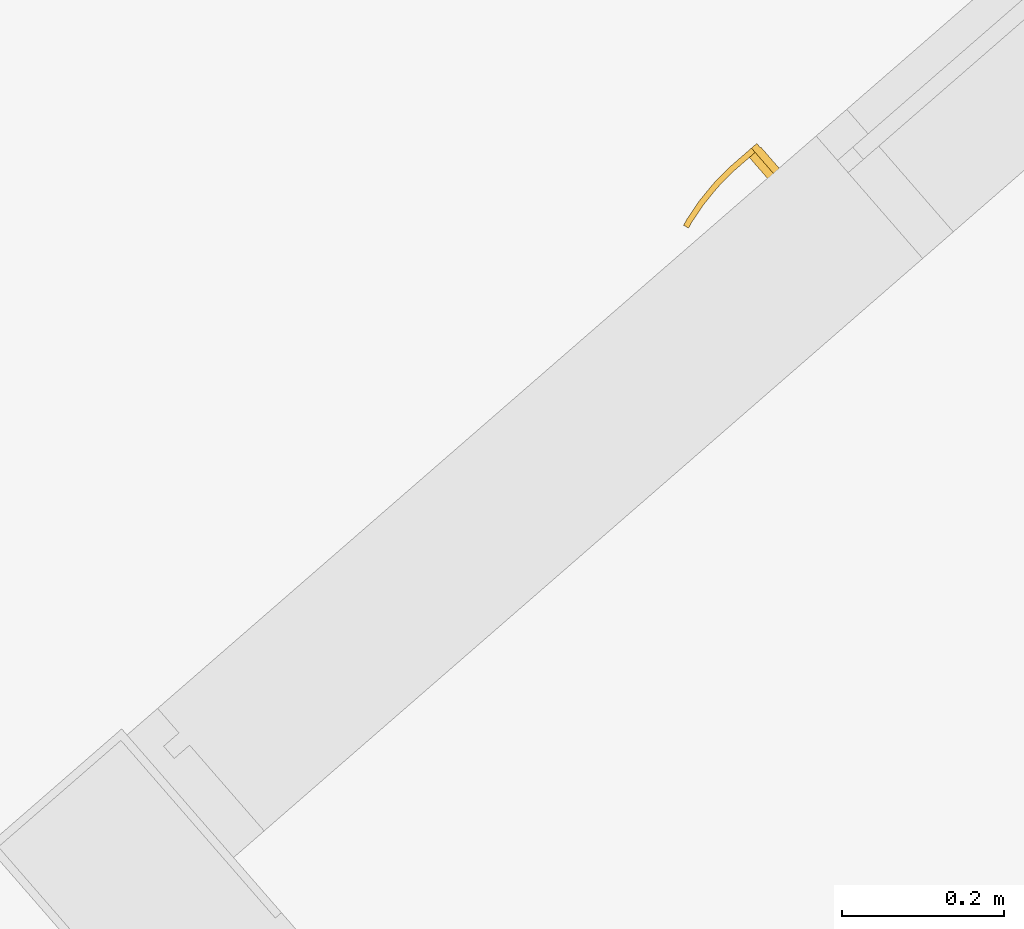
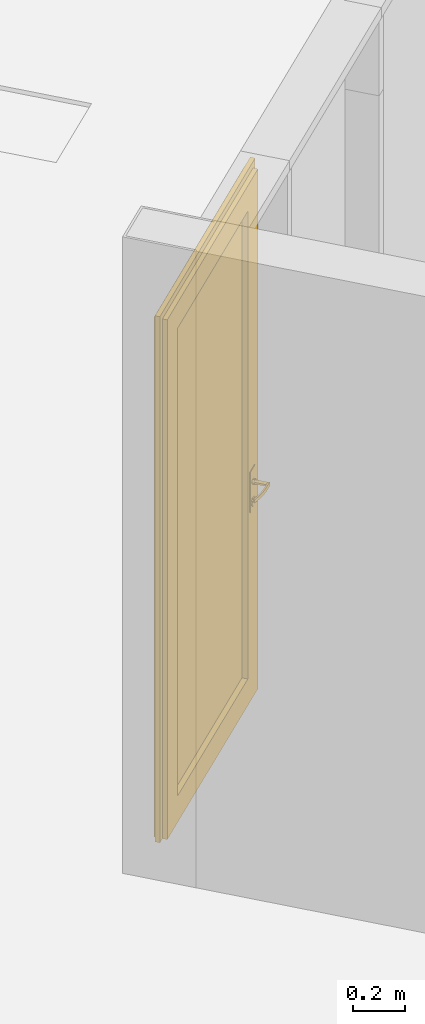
# One storey, part 111 of 124: 1 door, 1 element without a shape of its own.
"""IFC2X3 building model written with IfcOpenShell, lengths in millimetres."""

from ifc_helpers import new_model, entity, si_unit, converted_unit, derived_unit, money_unit, direction, frame, origin_with_axes, place, context, subcontext, project, spatial, open_shell, faceted_brep, surface_model, material, material_list, type_object, element, aggregate, save


model = new_model("IFC2X3")

# Units and contexts
model_context = context("Model", 3, precision=1e-05, world=origin_with_axes(), true_north=direction((0.0, 1.0)))
body_context = subcontext(model_context, "Body", "Model", "MODEL_VIEW")
ifc_project = project(units=[si_unit("LENGTHUNIT", "METRE", prefix="MILLI"), si_unit("AREAUNIT", "SQUARE_METRE"), si_unit("VOLUMEUNIT", "CUBIC_METRE"), converted_unit("PLANEANGLEUNIT", "DEGREE", entity("IfcPlaneAngleMeasure", 0.0174532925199), si_unit("PLANEANGLEUNIT", "RADIAN"), dimensions=[0, 0, 0, 0, 0, 0, 0]), si_unit("SOLIDANGLEUNIT", "STERADIAN"), money_unit("EUR"), converted_unit("TIMEUNIT", "Year", entity("IfcTimeMeasure", 31556926.0), si_unit("TIMEUNIT", "SECOND"), dimensions=[0, 0, 1, 0, 0, 0, 0]), si_unit("MASSUNIT", "GRAM", prefix="KILO"), si_unit("THERMODYNAMICTEMPERATUREUNIT", "DEGREE_CELSIUS"), si_unit("LUMINOUSINTENSITYUNIT", "LUMEN"), si_unit("ENERGYUNIT", "JOULE", prefix="MEGA"), derived_unit("THERMALCONDUCTANCEUNIT", [(si_unit("POWERUNIT", "WATT"), 1), (si_unit("LENGTHUNIT", "METRE"), -1), (si_unit("THERMODYNAMICTEMPERATUREUNIT", "KELVIN"), -1)]), derived_unit("SPECIFICHEATCAPACITYUNIT", [(si_unit("ENERGYUNIT", "JOULE"), 1), (si_unit("MASSUNIT", "GRAM", prefix="KILO"), -1), (si_unit("THERMODYNAMICTEMPERATUREUNIT", "KELVIN"), -1)]), derived_unit("MASSDENSITYUNIT", [(si_unit("MASSUNIT", "GRAM", prefix="KILO"), 1), (si_unit("VOLUMEUNIT", "CUBIC_METRE"), -1)])], contexts=[model_context])

# Site, building, storey
site_placement = place(None, origin_with_axes())
site = spatial("IfcSite", under=ifc_project, at=site_placement, Name="Site", CompositionType="ELEMENT")
building_placement = place(site_placement, origin_with_axes())
building = spatial("IfcBuilding", under=site, at=building_placement, Name="Building", CompositionType="ELEMENT")
storey_placement = place(building_placement, frame((0.0, 0.0, -1615.0), z_axis=(0.0, 0.0, 1.0), x_axis=(1.0, 0.0, 0.0)))
storey = spatial("IfcBuildingStorey", under=building, at=storey_placement, Name="0  korrus", CompositionType="ELEMENT", Elevation=-1615.0)

# Curtain wall, door
curtain_wall_type = type_object("IfcCurtainWallType", Name="KS-13", PredefinedType="NOTDEFINED")
curtain_wall_placement = place(storey_placement, frame((162918.061807, 93437.3475866, 0.0), z_axis=(0.0, 0.0, 1.0), x_axis=(1.0, 0.0, 0.0)))
curtain_wall = element("IfcCurtainWall", 1, at=curtain_wall_placement, inside=storey, type_object=curtain_wall_type, Name="Klaas-sein")
ifc_material_1 = material(Name="Aluminium MUST")
ifc_material_2 = material(Name="Klaas")
ifc_material_3 = material(Name="Teras (musta värvi)")
ifc_material_list = material_list([ifc_material_1, ifc_material_1, ifc_material_1, ifc_material_1, ifc_material_1, ifc_material_1, ifc_material_1, ifc_material_1, ifc_material_1, ifc_material_1, ifc_material_1, ifc_material_1, ifc_material_1, ifc_material_2, ifc_material_3, ifc_material_3, ifc_material_3, ifc_material_3, ifc_material_3, ifc_material_3, ifc_material_3, ifc_material_3, ifc_material_3, ifc_material_3, ifc_material_3, ifc_material_3, ifc_material_3, ifc_material_3])
door_style = type_object("IfcDoorStyle", Name="1130 x 380 x 20", ConstructionType="NOTDEFINED", OperationType="NOTDEFINED", ParameterTakesPrecedence=False, Sizeable=False)
door_placement = place(curtain_wall_placement, frame((0.0, 0.0, 1533.33331403), z_axis=(0.0, 0.0, 1.0), x_axis=(-0.754709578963, -0.65605903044, 0.0)))
door = element("IfcDoor", 2, at=door_placement, type_object=door_style, material=ifc_material_list, Name="Klaas-seina integreeritud siseuks * CW Door 22", context=body_context, shape_type="SurfaceModel", body=[
    faceted_brep([(-550.000011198, -20.0, -1533.33331403), (-550.000011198, -25.0, -1533.33331403), (-550.000011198, -25.0, 916.666629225), (-550.000011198, -20.0, 916.666629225), (-505.000011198, -20.0, -1533.33331403), (-505.000011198, -25.0, -1533.33331403), (-505.000011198, -25.0, 871.666629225), (-505.000011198, -20.0, 871.666629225)], [[[0, 1, 2, 3]], [[4, 5, 1, 0]], [[1, 5, 6, 2]], [[3, 2, 6, 7]], [[0, 3, 7, 4]], [[7, 6, 5, 4]]]),
    faceted_brep([(525.000001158, -20.0, 916.666629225), (525.000001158, -25.0, 916.666629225), (480.000001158, -25.0, 871.666629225), (480.000001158, -20.0, 871.666629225), (-550.000011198, -20.0, 916.666629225), (-550.000011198, -25.0, 916.666629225), (-505.000011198, -25.0, 871.666629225), (-505.000011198, -20.0, 871.666629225)], [[[0, 1, 2, 3]], [[4, 5, 1, 0]], [[1, 5, 6, 2]], [[3, 2, 6, 7]], [[0, 3, 7, 4]], [[7, 6, 5, 4]]]),
    faceted_brep([(525.000001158, -20.0, -1533.33331403), (525.000001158, -25.0, -1533.33331403), (480.000001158, -25.0, -1533.33331403), (480.000001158, -20.0, -1533.33331403), (525.000001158, -20.0, 916.666629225), (525.000001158, -25.0, 916.666629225), (480.000001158, -25.0, 871.666629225), (480.000001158, -20.0, 871.666629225)], [[[0, 1, 2, 3]], [[4, 5, 1, 0]], [[1, 5, 6, 2]], [[3, 2, 6, 7]], [[0, 3, 7, 4]], [[7, 6, 5, 4]]]),
    faceted_brep([(-550.000011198, 30.0, -1533.33331403), (-550.000011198, -20.0, -1533.33331403), (-550.000011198, -20.0, 916.666629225), (-550.000011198, 30.0, 916.666629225), (-530.000011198, 30.0, -1533.33331403), (-530.000011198, -20.0, -1533.33331403), (-530.000011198, -20.0, 896.666629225), (-530.000011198, 30.0, 896.666629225)], [[[0, 1, 2, 3]], [[4, 5, 1, 0]], [[1, 5, 6, 2]], [[3, 2, 6, 7]], [[0, 3, 7, 4]], [[7, 6, 5, 4]]]),
    faceted_brep([(525.000001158, 30.0, 916.666629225), (525.000001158, -20.0, 916.666629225), (505.000001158, -20.0, 896.666629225), (505.000001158, 30.0, 896.666629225), (-550.000011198, 30.0, 916.666629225), (-550.000011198, -20.0, 916.666629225), (-530.000011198, -20.0, 896.666629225), (-530.000011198, 30.0, 896.666629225)], [[[0, 1, 2, 3]], [[4, 5, 1, 0]], [[1, 5, 6, 2]], [[3, 2, 6, 7]], [[0, 3, 7, 4]], [[7, 6, 5, 4]]]),
    faceted_brep([(525.000001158, 30.0, -1533.33331403), (525.000001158, -20.0, -1533.33331403), (505.000001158, -20.0, -1533.33331403), (505.000001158, 30.0, -1533.33331403), (525.000001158, 30.0, 916.666629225), (525.000001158, -20.0, 916.666629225), (505.000001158, -20.0, 896.666629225), (505.000001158, 30.0, 896.666629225)], [[[0, 1, 2, 3]], [[4, 5, 1, 0]], [[1, 5, 6, 2]], [[3, 2, 6, 7]], [[0, 3, 7, 4]], [[7, 6, 5, 4]]]),
    faceted_brep([(-530.000011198, 30.0, -1533.33331403), (-530.000011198, -20.0, -1533.33331403), (-530.000011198, -20.0, -1508.33331403), (-530.000011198, 30.0, -1508.33331403), (505.000001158, 30.0, -1533.33331403), (505.000001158, -20.0, -1533.33331403), (505.000001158, -20.0, -1508.33331403), (505.000001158, 30.0, -1508.33331403)], [[[0, 1, 2, 3]], [[4, 5, 1, 0]], [[1, 5, 6, 2]], [[3, 2, 6, 7]], [[0, 3, 7, 4]], [[7, 6, 5, 4]]]),
    faceted_brep([(-575.000010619, 9.99999999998, -1533.33331403), (-575.000010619, -10.0, -1533.33331403), (-575.000010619, -10.0, 946.666643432), (-575.000010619, 9.99999999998, 946.666643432), (-550.000011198, 9.99999999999, -1533.33331403), (-550.000011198, -10.0, -1533.33331403), (-550.000011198, -10.0, 916.666629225), (-550.000011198, 9.99999999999, 916.666629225)], [[[0, 1, 2, 3]], [[4, 5, 1, 0]], [[1, 5, 6, 2]], [[3, 2, 6, 7]], [[0, 3, 7, 4]], [[7, 6, 5, 4]]]),
    faceted_brep([(-575.000010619, 9.99999999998, 946.666643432), (-575.000010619, -10.0, 946.666643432), (555.000015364, -10.0, 946.666643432), (555.000015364, 9.99999999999, 946.666643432), (-550.000011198, 9.99999999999, 916.666629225), (-550.000011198, -10.0, 916.666629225), (525.000001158, -10.0, 916.666629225), (525.000001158, 9.99999999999, 916.666629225)], [[[0, 1, 2, 3]], [[4, 5, 1, 0]], [[1, 5, 6, 2]], [[3, 2, 6, 7]], [[0, 3, 7, 4]], [[7, 6, 5, 4]]]),
    faceted_brep([(555.000015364, 9.99999999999, 946.666643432), (555.000015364, -10.0, 946.666643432), (555.000015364, -10.0, -1533.33331403), (555.000015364, 9.99999999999, -1533.33331403), (525.000001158, 9.99999999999, 916.666629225), (525.000001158, -10.0, 916.666629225), (525.000001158, -10.0, -1533.33331403), (525.000001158, 9.99999999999, -1533.33331403)], [[[0, 1, 2, 3]], [[4, 5, 1, 0]], [[1, 5, 6, 2]], [[3, 2, 6, 7]], [[0, 3, 7, 4]], [[7, 6, 5, 4]]]),
    faceted_brep([(405.000001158, -20.0, -1408.33331403), (405.000001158, -20.0, 796.666629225), (405.000001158, 30.0, 796.666629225), (405.000001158, 30.0, -1408.33331403), (505.000001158, -20.0, -1508.33331403), (505.000001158, -20.0, 896.666629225), (505.000001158, 30.0, 896.666629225), (505.000001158, 30.0, -1508.33331403)], [[[0, 1, 2, 3]], [[0, 4, 5, 1]], [[1, 5, 6, 2]], [[3, 2, 6, 7]], [[4, 0, 3, 7]], [[5, 4, 7, 6]]]),
    faceted_brep([(-530.000011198, -20.0, -1508.33331403), (-530.000011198, -20.0, 896.666629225), (-530.000011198, 30.0, 896.666629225), (-530.000011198, 30.0, -1508.33331403), (-430.000011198, -20.0, -1408.33331403), (-430.000011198, -20.0, 796.666629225), (-430.000011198, 30.0, 796.666629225), (-430.000011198, 30.0, -1408.33331403)], [[[0, 1, 2, 3]], [[0, 4, 5, 1]], [[1, 5, 6, 2]], [[3, 2, 6, 7]], [[4, 0, 3, 7]], [[5, 4, 7, 6]]]),
    faceted_brep([(-530.000011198, -20.0, -1508.33331403), (-430.000011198, -20.0, -1408.33331403), (-430.000011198, 30.0, -1408.33331403), (-530.000011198, 30.0, -1508.33331403), (505.000001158, -20.0, -1508.33331403), (405.000001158, -20.0, -1408.33331403), (405.000001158, 30.0, -1408.33331403), (505.000001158, 30.0, -1508.33331403)], [[[0, 1, 2, 3]], [[0, 4, 5, 1]], [[1, 5, 6, 2]], [[3, 2, 6, 7]], [[4, 0, 3, 7]], [[5, 4, 7, 6]]]),
    faceted_brep([(505.000001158, -20.0, 896.666629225), (405.000001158, -20.0, 796.666629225), (405.000001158, 30.0, 796.666629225), (505.000001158, 30.0, 896.666629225), (-530.000011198, -20.0, 896.666629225), (-430.000011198, -20.0, 796.666629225), (-430.000011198, 30.0, 796.666629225), (-530.000011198, 30.0, 896.666629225)], [[[0, 1, 2, 3]], [[0, 4, 5, 1]], [[1, 5, 6, 2]], [[3, 2, 6, 7]], [[4, 0, 3, 7]], [[5, 4, 7, 6]]]),
    faceted_brep([(405.000001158, -10.0, -1408.33331403), (-430.000011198, -10.0, -1408.33331403), (-430.000011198, 6.0, -1408.33331403), (405.000001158, 5.99999999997, -1408.33331403), (405.000001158, -10.0, 796.666629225), (-430.000011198, -10.0, 796.666629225), (-430.000011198, 6.0, 796.666629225), (405.000001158, 5.99999999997, 796.666629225)], [[[0, 1, 2, 3]], [[0, 4, 5, 1]], [[1, 5, 6, 2]], [[3, 2, 6, 7]], [[4, 0, 3, 7]], [[5, 4, 7, 6]]]),
    faceted_brep([(-508.500011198, 30.0, -448.333314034), (-451.500011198, 30.0, -448.333314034), (-451.500011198, 33.0, -448.333314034), (-508.500011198, 33.0, -448.333314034), (-508.500011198, 30.0, -638.333314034), (-451.500011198, 30.0, -638.333314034), (-451.500011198, 33.0, -638.333314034), (-508.500011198, 33.0, -638.333314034)], [[[0, 1, 2, 3]], [[0, 4, 5, 1]], [[1, 5, 6, 2]], [[3, 2, 6, 7]], [[4, 0, 3, 7]], [[5, 4, 7, 6]]]),
    surface_model("IfcShellBasedSurfaceModel", [(-480.000011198, 94.0, -518.333314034), (-488.660265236, 94.0, -513.333314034), (-488.660265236, 101.0, -513.333314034), (-480.000011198, 101.0, -518.333314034), (-455.000011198, 94.0, -518.333314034), (-455.000011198, 94.0, -498.333314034), (-480.000011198, 94.0, -498.333314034), (-488.660265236, 94.0, -503.333314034), (-488.660265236, 101.0, -503.333314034), (-480.000011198, 101.0, -498.333314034), (-455.000011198, 101.0, -498.333314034), (-455.000011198, 101.0, -518.333314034)], [open_shell([[[0, 1, 2, 3]], [[0, 4, 5, 6, 7, 1]], [[1, 7, 8, 2]], [[3, 2, 8, 9, 10, 11]], [[4, 0, 3, 11]], [[6, 5, 10, 9]], [[7, 6, 9, 8]]])]),
    surface_model("IfcShellBasedSurfaceModel", [(-455.000011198, 94.0, -498.333314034), (-441.901728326, 94.0, -498.726013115), (-441.596101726, 101.0, -498.726013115), (-455.000011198, 94.0, -518.333314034), (-441.901728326, 94.0, -517.940614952), (-414.890294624, 98.6635446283, -499.511411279), (-455.000011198, 101.0, -498.333314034), (-455.000011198, 101.0, -518.333314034), (-415.804848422, 91.716818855, -517.155216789), (-415.804848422, 91.716818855, -499.511411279), (-414.890294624, 98.6635446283, -517.155216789), (-441.596101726, 101.0, -517.940614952), (-390.006267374, 87.1678329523, -516.369818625), (-390.006267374, 87.1678329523, -500.296809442), (-388.489746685, 94.0084157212, -500.296809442), (-388.489746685, 94.0084157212, -516.369818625), (-364.702327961, 80.3876628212, -515.584420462), (-364.702327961, 80.3876628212, -501.082207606), (-362.595382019, 87.0700416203, -501.082207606), (-362.595382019, 87.0700416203, -515.584420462), (-356.82945321, 77.5221707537, -515.333314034), (-356.82945321, 77.5221707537, -501.333314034), (-354.538806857, 84.1376880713, -501.333314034), (-354.538806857, 84.1376880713, -515.333314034)], [open_shell([[[0, 1, 2]], [[0, 3, 4, 1]], [[1, 5, 2]], [[0, 2, 6]], [[4, 3, 7]], [[1, 4, 8, 9]], [[1, 9, 5]], [[2, 5, 10, 11]], [[6, 2, 11, 7]], [[4, 7, 11]], [[8, 4, 11]], [[9, 8, 12, 13]], [[9, 14, 5]], [[5, 14, 15, 10]], [[8, 11, 10]], [[12, 8, 10]], [[13, 12, 16, 17]], [[9, 13, 14]], [[14, 18, 19, 15]], [[12, 10, 15]], [[16, 12, 15]], [[17, 16, 20, 21]], [[13, 17, 18]], [[13, 18, 14]], [[18, 22, 23, 19]], [[16, 15, 19]], [[20, 16, 19]], [[21, 20, 23, 22]], [[17, 21, 22]], [[17, 22, 18]], [[20, 19, 23]]])]),
    faceted_brep([(-476.291807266, 43.0, -519.745992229), (-468.000011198, 43.0, -508.333314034), (-467.000011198, 33.0, -508.333314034), (-475.982790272, 33.0, -520.697048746), (-489.708215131, 43.0, -515.386737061), (-489.708215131, 43.0, -501.279891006), (-476.291807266, 43.0, -496.920635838), (-475.982790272, 33.0, -495.969579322), (-490.517232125, 33.0, -500.692105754), (-490.517232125, 33.0, -515.974522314)], [[[0, 1, 2, 3]], [[1, 0, 4, 5, 6]], [[1, 6, 7, 2]], [[2, 7, 8, 9, 3]], [[4, 0, 3, 9]], [[5, 4, 9, 8]], [[6, 5, 8, 7]]]),
    faceted_brep([(-473.819671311, 37.0, -622.35444436), (-460.000011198, 37.0, -603.333314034), (-458.000011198, 33.0, -603.333314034), (-473.201637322, 33.0, -624.256557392), (-496.180351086, 37.0, -615.08901908), (-496.180351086, 37.0, -591.577608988), (-473.819671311, 37.0, -584.312183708), (-473.201637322, 33.0, -582.410070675), (-497.798385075, 33.0, -590.402038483), (-497.798385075, 33.0, -616.264589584)], [[[0, 1, 2, 3]], [[1, 0, 4, 5, 6]], [[1, 6, 7, 2]], [[2, 7, 8, 9, 3]], [[4, 0, 3, 9]], [[5, 4, 9, 8]], [[6, 5, 8, 7]]]),
    faceted_brep([(-477.836892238, 39.0, -600.990709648), (-473.000011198, 39.0, -594.333314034), (-472.000011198, 37.0, -594.333314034), (-477.527875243, 37.0, -601.941766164), (-485.663130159, 39.0, -598.4478108), (-485.663130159, 39.0, -590.218817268), (-477.836892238, 39.0, -587.67591842), (-477.527875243, 37.0, -586.724861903), (-486.472147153, 37.0, -589.631032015), (-486.472147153, 37.0, -599.035596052)], [[[0, 1, 2, 3]], [[1, 0, 4, 5, 6]], [[1, 6, 7, 2]], [[2, 7, 8, 9, 3]], [[4, 0, 3, 9]], [[5, 4, 9, 8]], [[6, 5, 8, 7]]]),
    faceted_brep([(-480.000011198, 43.0, -498.333314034), (-470.489446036, 43.0, -505.24314409), (-470.489446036, 94.0, -505.24314409), (-480.000011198, 94.0, -498.333314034), (-489.510576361, 43.0, -505.24314409), (-485.877863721, 43.0, -516.423483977), (-474.122158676, 43.0, -516.423483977), (-474.122158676, 94.0, -516.423483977), (-485.877863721, 94.0, -516.423483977), (-489.510576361, 94.0, -505.24314409)], [[[0, 1, 2, 3]], [[0, 4, 5, 6, 1]], [[1, 6, 7, 2]], [[3, 2, 7, 8, 9]], [[4, 0, 3, 9]], [[5, 4, 9, 8]], [[6, 5, 8, 7]]]),
    faceted_brep([(-508.500011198, -20.0, -448.333314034), (-508.500011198, -23.0, -448.333314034), (-451.500011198, -23.0, -448.333314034), (-451.500011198, -20.0, -448.333314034), (-508.500011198, -20.0, -638.333314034), (-508.500011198, -23.0, -638.333314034), (-451.500011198, -23.0, -638.333314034), (-451.500011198, -20.0, -638.333314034)], [[[0, 1, 2, 3]], [[4, 5, 1, 0]], [[1, 5, 6, 2]], [[3, 2, 6, 7]], [[0, 3, 7, 4]], [[7, 6, 5, 4]]]),
    surface_model("IfcShellBasedSurfaceModel", [(-480.000011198, -84.0, -518.333314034), (-480.000011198, -91.0, -518.333314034), (-488.660265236, -91.0, -513.333314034), (-488.660265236, -84.0, -513.333314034), (-455.000011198, -84.0, -518.333314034), (-455.000011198, -91.0, -518.333314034), (-455.000011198, -91.0, -498.333314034), (-480.000011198, -91.0, -498.333314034), (-488.660265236, -91.0, -503.333314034), (-488.660265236, -84.0, -503.333314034), (-480.000011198, -84.0, -498.333314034), (-455.000011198, -84.0, -498.333314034)], [open_shell([[[0, 1, 2, 3]], [[4, 5, 1, 0]], [[1, 5, 6, 7, 8, 2]], [[3, 2, 8, 9]], [[0, 3, 9, 10, 11, 4]], [[10, 7, 6, 11]], [[9, 8, 7, 10]]])]),
    surface_model("IfcShellBasedSurfaceModel", [(-455.000011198, -84.0, -498.333314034), (-441.596101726, -91.0, -498.726013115), (-441.901728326, -84.0, -498.726013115), (-455.000011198, -91.0, -498.333314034), (-414.890294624, -88.6635446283, -499.511411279), (-441.901728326, -84.0, -517.940614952), (-455.000011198, -84.0, -518.333314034), (-455.000011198, -91.0, -518.333314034), (-441.596101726, -91.0, -517.940614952), (-414.890294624, -88.6635446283, -517.155216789), (-415.804848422, -81.7168188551, -499.511411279), (-415.804848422, -81.7168188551, -517.155216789), (-388.489746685, -84.0084157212, -516.369818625), (-388.489746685, -84.0084157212, -500.296809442), (-390.006267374, -77.1678329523, -500.296809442), (-390.006267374, -77.1678329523, -516.369818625), (-362.595382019, -77.0700416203, -515.584420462), (-362.595382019, -77.0700416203, -501.082207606), (-364.702327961, -70.3876628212, -501.082207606), (-364.702327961, -70.3876628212, -515.584420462), (-354.538806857, -74.1376880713, -515.333314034), (-354.538806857, -74.1376880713, -501.333314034), (-356.82945321, -67.5221707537, -501.333314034), (-356.82945321, -67.5221707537, -515.333314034)], [open_shell([[[0, 1, 2]], [[0, 3, 1]], [[2, 1, 4]], [[0, 2, 5, 6]], [[3, 7, 8, 1]], [[1, 8, 9, 4]], [[2, 4, 10]], [[2, 10, 11, 5]], [[5, 7, 6]], [[5, 8, 7]], [[11, 9, 8]], [[4, 9, 12, 13]], [[10, 4, 13]], [[10, 14, 15, 11]], [[11, 8, 5]], [[15, 9, 11]], [[15, 12, 9]], [[13, 12, 16, 17]], [[10, 13, 14]], [[14, 18, 19, 15]], [[19, 12, 15]], [[19, 16, 12]], [[17, 16, 20, 21]], [[14, 13, 17]], [[14, 17, 18]], [[18, 22, 23, 19]], [[23, 16, 19]], [[23, 20, 16]], [[22, 21, 20, 23]], [[18, 17, 21]], [[18, 21, 22]]])]),
    faceted_brep([(-476.291807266, -33.0, -519.745992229), (-475.982790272, -23.0, -520.697048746), (-467.000011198, -23.0, -508.333314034), (-468.000011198, -33.0, -508.333314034), (-489.708215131, -33.0, -515.386737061), (-490.517232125, -23.0, -515.974522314), (-490.517232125, -23.0, -500.692105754), (-475.982790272, -23.0, -495.969579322), (-476.291807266, -33.0, -496.920635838), (-489.708215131, -33.0, -501.279891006)], [[[0, 1, 2, 3]], [[4, 5, 1, 0]], [[2, 1, 5, 6, 7]], [[3, 2, 7, 8]], [[3, 8, 9, 4, 0]], [[9, 6, 5, 4]], [[8, 7, 6, 9]]]),
    faceted_brep([(-473.819671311, -27.0, -622.35444436), (-473.201637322, -23.0, -624.256557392), (-458.000011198, -23.0, -603.333314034), (-460.000011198, -27.0, -603.333314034), (-496.180351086, -27.0, -615.08901908), (-497.798385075, -23.0, -616.264589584), (-497.798385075, -23.0, -590.402038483), (-473.201637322, -23.0, -582.410070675), (-473.819671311, -27.0, -584.312183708), (-496.180351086, -27.0, -591.577608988)], [[[0, 1, 2, 3]], [[4, 5, 1, 0]], [[2, 1, 5, 6, 7]], [[3, 2, 7, 8]], [[3, 8, 9, 4, 0]], [[9, 6, 5, 4]], [[8, 7, 6, 9]]]),
    faceted_brep([(-477.836892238, -29.0, -600.990709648), (-477.527875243, -27.0, -601.941766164), (-472.000011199, -27.0, -594.333314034), (-473.000011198, -29.0, -594.333314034), (-485.663130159, -29.0, -598.4478108), (-486.472147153, -27.0, -599.035596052), (-486.472147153, -27.0, -589.631032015), (-477.527875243, -27.0, -586.724861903), (-477.836892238, -29.0, -587.67591842), (-485.663130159, -29.0, -590.218817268)], [[[0, 1, 2, 3]], [[4, 5, 1, 0]], [[2, 1, 5, 6, 7]], [[3, 2, 7, 8]], [[3, 8, 9, 4, 0]], [[9, 6, 5, 4]], [[8, 7, 6, 9]]]),
    faceted_brep([(-480.000011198, -33.0, -498.333314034), (-480.000011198, -84.0, -498.333314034), (-470.489446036, -84.0, -505.24314409), (-470.489446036, -33.0, -505.24314409), (-489.510576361, -33.0, -505.24314409), (-489.510576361, -84.0, -505.24314409), (-485.877863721, -84.0, -516.423483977), (-474.122158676, -84.0, -516.423483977), (-474.122158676, -33.0, -516.423483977), (-485.877863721, -33.0, -516.423483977)], [[[0, 1, 2, 3]], [[4, 5, 1, 0]], [[1, 5, 6, 7, 2]], [[3, 2, 7, 8]], [[0, 3, 8, 9, 4]], [[9, 6, 5, 4]], [[8, 7, 6, 9]]]),
])
aggregate(curtain_wall, [door])

save(model, "model.ifc")
